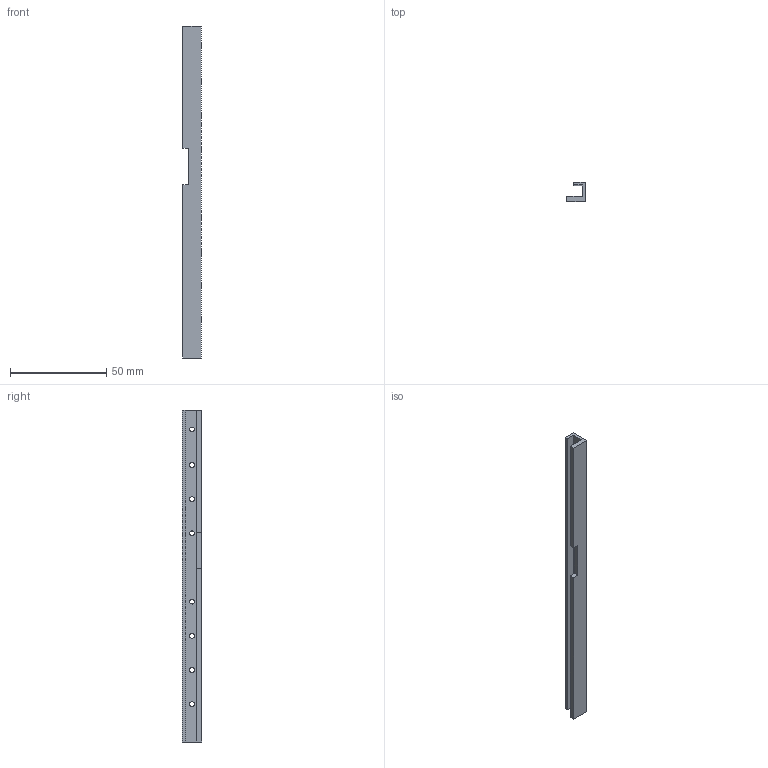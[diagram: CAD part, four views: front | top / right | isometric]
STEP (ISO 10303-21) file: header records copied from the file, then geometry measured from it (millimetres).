
FILE_DESCRIPTION(/* description */ (''),/* implementation_level */ '2;1');
FILE_NAME(/* name */ 'D:\Downloads\Plastikov-v1-3\STEP\Plastikov Right Rail Milled Spec.stp',/* time_stamp */ '2020-05-01T17:06:21-05:00',/* author */ ('johne'),/* organization */ (''),/* preprocessor_version */ 'ST-DEVELOPER v18',/* originating_system */ 'Autodesk Inventor 2020',/* authorisation */ '');
FILE_SCHEMA (('AUTOMOTIVE_DESIGN { 1 0 10303 214 3 1 1 }'));
Length unit declared in the file: inch
Products named in the file (1): Plastikov v1.0 Right Rail
Bounding box: 9.65 x 10 x 172.77 mm (x, y, z)
Volume: 7292.7 mm3; surface area: 8381.2 mm2
Topology: 1 solids, 1 shells, 22 faces, 68 edges, 48 vertices
Faces by surface type: plane 14, cylinder 8
Full cylindrical faces by diameter (mm): 2.5 x8
Entity records: 855 total; most frequent: CARTESIAN_POINT 139, DIRECTION 138, ORIENTED_EDGE 136, EDGE_CURVE 68, VERTEX_POINT 48, AXIS2_PLACEMENT_3D 47, LINE 44, VECTOR 44
